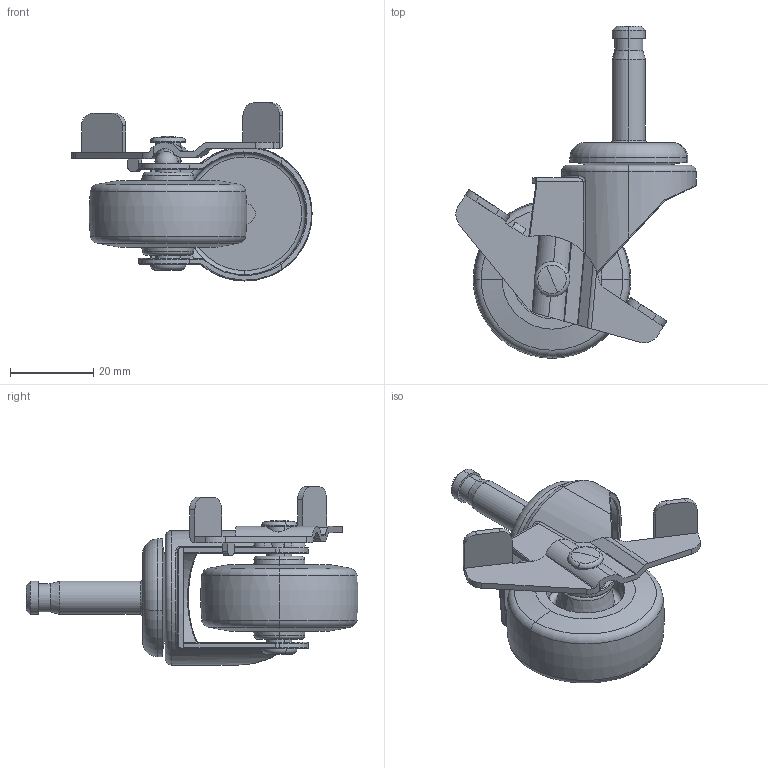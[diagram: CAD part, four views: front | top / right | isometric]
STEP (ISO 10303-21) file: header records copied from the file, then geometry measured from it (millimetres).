
FILE_DESCRIPTION (( 'STEP AP214' ), '1' );
FILE_NAME ('201615-2015-52 脣裝价陬.STEP', '2019-12-10T00:15:38', ( 'Owner' ), ( 'Organization' ), 'SwSTEP 2.0', 'SolidWorks 2014', '' );
FILE_SCHEMA (( 'AUTOMOTIVE_DESIGN' ));
Length unit declared in the file: millimetre
Products named in the file (7): 200-25 脣裝耳8x28; 20炵蹈 价陬穩隊; 2015-52; 260a-14 耜价; 201615-2015-52 脣裝价陬; 2015A-12A; 200-03A 詩俖
Assembly tree (6 placements, depth 2):
  201615-2015-52 脣裝价陬
    200-25 脣裝耳8x28
    200-03A 詩俖
    2015A-12A
    260a-14 耜价
    20炵蹈 价陬穩隊
    2015-52
Bounding box: 57.86 x 79.97 x 42.9 mm (x, y, z)
Volume: 26299.7 mm3; surface area: 16061.4 mm2
Topology: 6 solids, 6 shells, 359 faces, 916 edges, 579 vertices
Faces by surface type: plane 185, cylinder 80, torus 52, cone 20, bspline 20, sphere 2
Entity records: 11791 total; most frequent: CARTESIAN_POINT 2957, ORIENTED_EDGE 1828, DIRECTION 1756, EDGE_CURVE 914, AXIS2_PLACEMENT_3D 602, VERTEX_POINT 579, LINE 552, VECTOR 552
